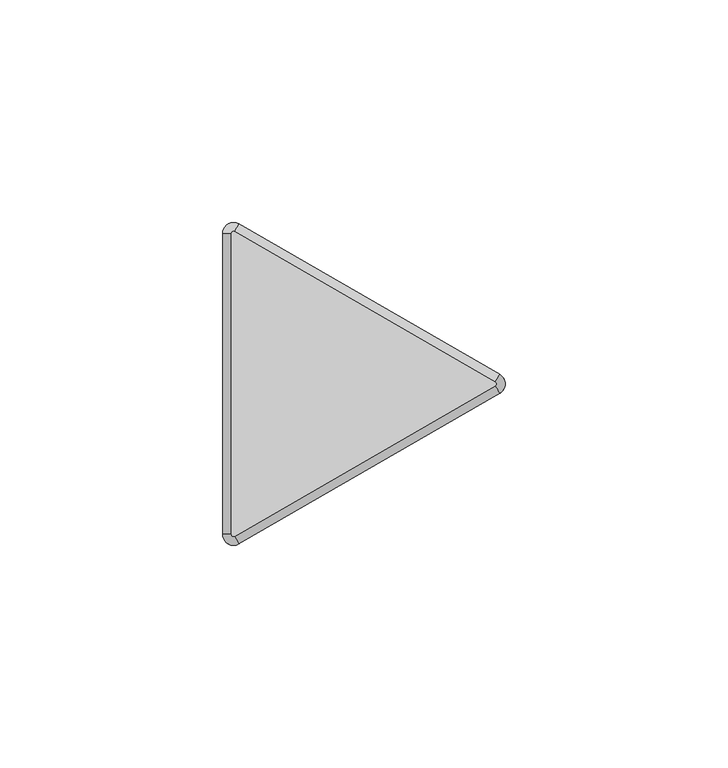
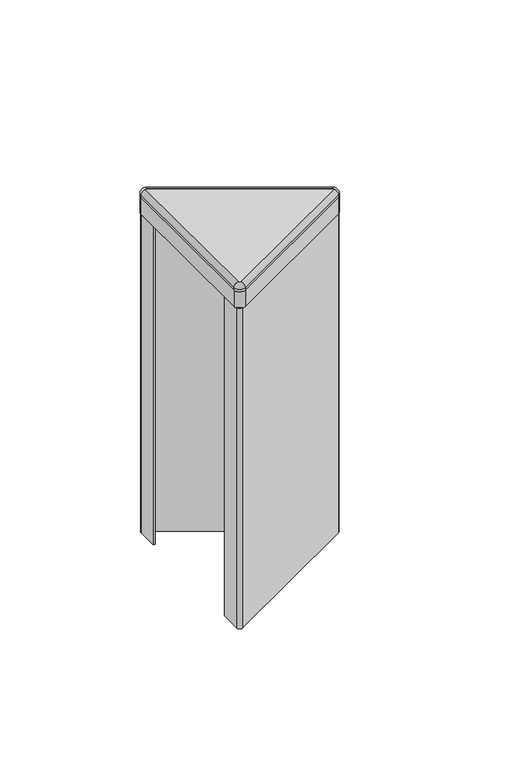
"""IFC4 building model written with IfcOpenShell, lengths in millimetres: furniture geometry, Steelcase - Answer Solution - Panel - 120deg Change-of-Height Trim - Thin : Y Corner - 6H for 42H App."""

from ifc_helpers import new_model, si_unit, point, frame, frame_2d, origin, place, context, project, spatial, polyline, circle_curve, ellipse_curve, trimmed, segment, composite_curve, outline, extrude, source, transform, mapped, element, save
from ifc_brep_helpers import plane_surface, cylinder_surface, revolved_surface, advanced_brep


def furniture_9f8a8c05(model_context):
    return source(origin(), model_context, "Body", "SolidModel", [
        advanced_brep(
        [(-10.518645, -37.3335529, 1071.2628978), (-14.2052101, -35.2051135, 1071.2628978), (-14.2052101, -35.2051135, 1070.3164663), (-10.518645, -37.3335529, 1070.3164663), (-11.46175, -35.7000471, 1073.15), (-12.319, -35.2051135, 1073.15), (-11.46175, -35.7000471, 1070.3164663), (-12.319, -35.2051135, 1070.3164663), (48.0429908, -3.5229767, 1070.3164663), (48.0429908, -3.5229767, 1071.2628978), (47.0998858, -1.8894709, 1073.15), (47.0998858, -1.8894709, 1070.3164663), (48.0429908, 0.733902, 1071.2628978), (48.0429908, 0.733902, 1070.3164663), (47.0998858, -0.8996038, 1073.15), (47.0998858, -0.8996038, 1070.3164663), (-10.518645, 34.5444782, 1070.3164663), (-14.2052101, 32.4160388, 1070.3164663), (-11.46175, 32.9109723, 1070.3164663), (-12.319, 32.4160388, 1070.3164663), (-10.518645, 34.5444782, 1071.2628978), (-11.46175, 32.9109723, 1073.15), (-14.2052101, 32.4160388, 1071.2628978), (-12.319, 32.4160388, 1073.15)],
        [
            (0, 1, circle_curve(frame((-11.7475, -35.2051135, 1071.2628978), z_axis=(0.0, 0.0, -1.0), x_axis=(-1.0, 0.0, 0.0)), 2.4577101)),
            (1, 2),
            (2, 3, circle_curve(frame((-11.7475, -35.2051135, 1070.3164663), z_axis=(0.0, 0.0, 1.0), x_axis=(-1.0, 0.0, 0.0)), 2.4577101)),
            (3, 0),
            (4, 5, circle_curve(frame((-11.7475, -35.2051135, 1073.15), z_axis=(0.0, 0.0, -1.0), x_axis=(-1.0, 0.0, 0.0)), 0.5715)),
            (5, 1, circle_curve(frame((-12.3181076, -35.2051135, 1071.2628978), z_axis=(0.0, -1.0, 0.0), x_axis=(1.0, 0.0, 0.0)), 1.8871024)),
            (0, 4, circle_curve(frame((-11.4621962, -35.6992743, 1071.2628978), z_axis=(-0.8660254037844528, -0.49999999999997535, 0.0), x_axis=(-0.49999999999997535, 0.8660254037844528, 0.0)), 1.8871024)),
            (6, 7, circle_curve(frame((-11.7475, -35.2051135, 1070.3164663), z_axis=(0.0, 0.0, -1.0), x_axis=(-1.0, 0.0, 0.0)), 0.5715)),
            (7, 5),
            (4, 6),
            (3, 8),
            (8, 9),
            (9, 0),
            (9, 10, circle_curve(frame((47.0994396, -1.8886981, 1071.2628978), z_axis=(-0.8660254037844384, -0.5000000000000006, 0.0), x_axis=(-0.5000000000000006, 0.8660254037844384, 0.0)), 1.8871024)),
            (10, 4),
            (10, 11),
            (11, 6),
            (12, 9, circle_curve(frame((46.8141358, -1.3945374, 1071.2628978), z_axis=(0.0, 0.0, -1.0), x_axis=(0.4999999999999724, -0.8660254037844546, 0.0)), 2.4577101)),
            (8, 13, circle_curve(frame((46.8141358, -1.3945374, 1070.3164663), z_axis=(0.0, 0.0, 1.0), x_axis=(0.4999999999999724, -0.8660254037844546, 0.0)), 2.4577101)),
            (13, 12),
            (14, 10, circle_curve(frame((46.8141358, -1.3945374, 1073.15), z_axis=(0.0, 0.0, -1.0), x_axis=(0.4999999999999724, -0.8660254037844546, 0.0)), 0.5715)),
            (12, 14, circle_curve(frame((47.0994396, -0.9003766, 1071.2628978), z_axis=(0.866025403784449, -0.499999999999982, 0.0), x_axis=(-0.499999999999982, -0.866025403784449, 0.0)), 1.8871024)),
            (15, 11, circle_curve(frame((46.8141358, -1.3945374, 1070.3164663), z_axis=(0.0, 0.0, -1.0), x_axis=(0.4999999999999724, -0.8660254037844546, 0.0)), 0.5715)),
            (14, 15),
            (16, 13),
            (2, 17),
            (17, 16, circle_curve(frame((-11.7475, 32.4160388, 1070.3164663), z_axis=(0.0, 0.0, -1.0), x_axis=(0.500000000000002, 0.8660254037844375, 0.0)), 2.4577101)),
            (15, 18),
            (18, 19, circle_curve(frame((-11.7475, 32.4160388, 1070.3164663), z_axis=(0.0, 0.0, 1.0), x_axis=(0.500000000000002, 0.8660254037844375, 0.0)), 0.5715)),
            (19, 7),
            (16, 20),
            (20, 12),
            (20, 21, circle_curve(frame((-11.4621962, 32.9101995, 1071.2628978), z_axis=(0.8660254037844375, -0.5000000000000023, 0.0), x_axis=(-0.5000000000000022, -0.8660254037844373, 0.0)), 1.8871024)),
            (21, 14),
            (21, 18),
            (22, 20, circle_curve(frame((-11.7475, 32.4160388, 1071.2628978), z_axis=(0.0, 0.0, -1.0), x_axis=(0.500000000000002, 0.8660254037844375, 0.0)), 2.4577101)),
            (17, 22),
            (23, 21, circle_curve(frame((-11.7475, 32.4160388, 1073.15), z_axis=(0.0, 0.0, -1.0), x_axis=(0.500000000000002, 0.8660254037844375, 0.0)), 0.5715)),
            (22, 23, circle_curve(frame((-12.3181076, 32.4160388, 1071.2628978), z_axis=(0.0, 1.0, 0.0), x_axis=(1.0, 0.0, 0.0)), 1.8871024)),
            (23, 19),
            (1, 22),
            (5, 23),
        ],
        [
            cylinder_surface(frame((-11.7475, -35.2051135, 0.0), z_axis=(0.0, 0.0, 1.0), x_axis=(-1.0, 0.0, 0.0)), 2.4577101),
            revolved_surface(trimmed(ellipse_curve(frame((-12.3181076, -35.2051135, 1071.2628978), z_axis=(0.0, 1.0, 0.0), x_axis=(1.0, 0.0, 0.0)), 1.8871024, 1.8871024), [point((-14.2052101, -35.2051135, 1071.2628978))], [point((-12.319, -35.2051135, 1073.15))], True, "CARTESIAN"), (-11.7475, -35.2051135, 0.0), (0.0, 0.0, 1.0)),
            revolved_surface(polyline([(-12.319, -35.2051135, 1073.15), (-12.319, -35.2051135, 1070.3164663)]), (-11.7475, -35.2051135, 0.0), (0.0, 0.0, 1.0)),
            plane_surface(frame((-10.518645, -37.3335529, 1070.3164663), z_axis=(0.500000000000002, -0.8660254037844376, 0.0), x_axis=(0.8660254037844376, 0.500000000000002, 0.0))),
            cylinder_surface(frame((-11.4621962, -35.6992743, 1071.2628978), z_axis=(-0.8660254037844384, -0.5000000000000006, 0.0), x_axis=(-0.5000000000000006, 0.8660254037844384, 0.0)), 1.8871024),
            plane_surface(frame((-11.46175, -35.7000471, 1073.15), z_axis=(-0.5000000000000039, 0.8660254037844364, 0.0), x_axis=(0.8660254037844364, 0.5000000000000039, 0.0))),
            cylinder_surface(frame((46.8141358, -1.3945374, 0.0), z_axis=(0.0, 0.0, 1.0), x_axis=(0.4999999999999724, -0.8660254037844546, 0.0)), 2.4577101),
            revolved_surface(trimmed(ellipse_curve(frame((47.0994396, -1.8886981, 1071.2628978), z_axis=(-0.8660254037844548, -0.499999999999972, 0.0), x_axis=(-0.499999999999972, 0.8660254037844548, 0.0)), 1.8871024, 1.8871024), [point((48.0429908, -3.5229767, 1071.2628978))], [point((47.0998858, -1.8894709, 1073.15))], True, "CARTESIAN"), (46.8141358, -1.3945374, 0.0), (0.0, 0.0, 1.0)),
            revolved_surface(polyline([(47.09988579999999, -1.8894709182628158, 1073.15), (47.09988579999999, -1.8894709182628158, 1070.3164663)]), (46.8141358, -1.3945374, 0.0), (0.0, 0.0, 1.0)),
            plane_surface(frame((47.0998858, -0.8996038, 1070.3164663), z_axis=(0.0, 0.0, -1.0), x_axis=(-0.8660254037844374, 0.5000000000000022, 0.0))),
            plane_surface(frame((48.0429908, 0.733902, 1070.3164663), z_axis=(0.5000000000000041, 0.8660254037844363, 0.0), x_axis=(-0.8660254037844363, 0.5000000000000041, 0.0))),
            cylinder_surface(frame((47.0994396, -0.9003766, 1071.2628978), z_axis=(0.8660254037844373, -0.5000000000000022, 0.0), x_axis=(-0.5000000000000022, -0.8660254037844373, 0.0)), 1.8871024),
            plane_surface(frame((47.0998858, -0.8996038, 1073.15), z_axis=(-0.5000000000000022, -0.8660254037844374, 0.0), x_axis=(-0.8660254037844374, 0.5000000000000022, 0.0))),
            cylinder_surface(frame((-11.7475, 32.4160388, 0.0), z_axis=(0.0, 0.0, 1.0), x_axis=(0.500000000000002, 0.8660254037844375, 0.0)), 2.4577101),
            revolved_surface(trimmed(ellipse_curve(frame((-11.4621962, 32.9101995, 1071.2628978), z_axis=(0.866025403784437, -0.5000000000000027, 0.0), x_axis=(-0.5000000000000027, -0.866025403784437, 0.0)), 1.8871024, 1.8871024), [point((-10.518645, 34.5444782, 1071.2628978))], [point((-11.46175, 32.9109723, 1073.15))], True, "CARTESIAN"), (-11.7475, 32.4160388, 0.0), (0.0, 0.0, 1.0)),
            revolved_surface(polyline([(-11.461749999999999, 32.91097231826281, 1073.15), (-11.461749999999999, 32.91097231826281, 1070.3164663)]), (-11.7475, 32.4160388, 0.0), (0.0, 0.0, 1.0)),
            plane_surface(frame((-14.2052101, 32.4160388, 1070.3164663), z_axis=(-1.0, 0.0, 0.0), x_axis=(0.0, -1.0, 0.0))),
            cylinder_surface(frame((-12.3181076, 32.4160388, 1071.2628978), z_axis=(0.0, 1.0, 0.0), x_axis=(1.0, 0.0, 0.0)), 1.8871024),
            plane_surface(frame((-12.319, 32.4160388, 1073.15), z_axis=(1.0, 0.0, 0.0), x_axis=(0.0, -1.0, 0.0))),
        ],
        [
            (0, [[1, 2, 3, 4]]),
            (1, [[5, 6, -1, 7]]),
            (2, [[8, 9, -5, 10]]),
            (3, [[-4, 11, 12, 13]]),
            (4, [[-7, -13, 14, 15]]),
            (5, [[-10, -15, 16, 17]]),
            (6, [[18, -12, 19, 20]]),
            (7, [[21, -14, -18, 22]]),
            (8, [[23, -16, -21, 24]]),
            (9, [[25, -19, -11, -3, 26, 27], [-8, -17, -23, 28, 29, 30]]),
            (10, [[-20, -25, 31, 32]]),
            (11, [[-22, -32, 33, 34]]),
            (12, [[-24, -34, 35, -28]]),
            (13, [[36, -31, -27, 37]]),
            (14, [[38, -33, -36, 39]]),
            (15, [[-29, -35, -38, 40]]),
            (16, [[-37, -26, -2, 41]]),
            (17, [[-39, -41, -6, 42]]),
            (18, [[-40, -42, -9, -30]]),
        ],
    ),
        extrude(outline(composite_curve([segment(trimmed(circle_curve(frame_2d((47.9522001, -1.3945374)), 1.2978651), [point((48.6011327, -0.2705532))], [point((48.6011327, -2.5185215))], False, "CARTESIAN"), True, "CONTINUOUS"), segment(polyline([(48.6011327, -2.5185215), (-11.6879343, -37.3264306)]), True, "CONTINUOUS"), segment(trimmed(circle_curve(frame_2d((-12.3300896, -36.2141852)), 1.2843104), [point((-11.6879343, -37.3264306))], [point((-13.6144, -36.2141852))], False, "CARTESIAN"), True, "CONTINUOUS"), segment(polyline([(-13.6144, -36.2141852), (-13.6144, -27.3303775), (-12.7, -27.3303775), (-12.7, -36.8548888), (48.7191304, -1.3945374), (-12.7, 34.0658141), (-12.7, 24.5413027), (-13.6144, 24.5413027), (-13.6144, 33.4106259)]), True, "CONTINUOUS"), segment(trimmed(circle_curve(frame_2d((-12.3217269, 33.4106259)), 1.2926731), [point((-13.6144, 33.4106259))], [point((-11.6753904, 34.5301136))], False, "CARTESIAN"), True, "CONTINUOUS"), segment(polyline([(-11.6753904, 34.5301136), (48.6011327, -0.2705532)]), True, "CONTINUOUS")], self_intersect=False)), frame((0.0, 0.0, 920.75), z_axis=(0.0, 0.0, 1.0), x_axis=(1.0, 0.0, 0.0)), (0.0, 0.0, 1.0), 142.24),
        extrude(outline(composite_curve([segment(trimmed(circle_curve(frame_2d((46.8261011, -1.3945374)), 0.5655173), [point((47.1088598, -0.904785))], [point((47.1088598, -1.8842897))], False, "CARTESIAN"), True, "CONTINUOUS"), segment(polyline([(47.1088598, -1.8842897), (-11.4505119, -35.6935587)]), True, "CONTINUOUS"), segment(trimmed(circle_curve(frame_2d((-11.7400079, -35.1921369)), 0.5789921), [point((-11.4505119, -35.6935587))], [point((-12.319, -35.1921369))], False, "CARTESIAN"), True, "CONTINUOUS"), segment(polyline([(-12.319, -35.1921369), (-12.319, 32.3985888)]), True, "CONTINUOUS"), segment(trimmed(circle_curve(frame_2d((-11.7374252, 32.3985888)), 0.5815748), [point((-12.319, 32.3985888))], [point((-11.4466378, 32.9022473))], False, "CARTESIAN"), True, "CONTINUOUS"), segment(polyline([(-11.4466378, 32.9022473), (47.1088598, -0.904785)]), True, "CONTINUOUS")], self_intersect=False)), frame((0.0, 0.0, 1070.3164663), z_axis=(0.0, 0.0, 1.0), x_axis=(1.0, 0.0, 0.0)), (0.0, 0.0, 1.0), 2.8335337),
        extrude(outline(composite_curve([segment(trimmed(circle_curve(frame_2d((46.8140443, -1.3945374)), 2.4577558), [point((48.0429222, 0.7339416))], [point((48.0429222, -3.5230163))], False, "CARTESIAN"), True, "CONTINUOUS"), segment(polyline([(48.0429222, -3.5230163), (-10.518058, -37.333214)]), True, "CONTINUOUS"), segment(trimmed(circle_curve(frame_2d((-11.7471087, -35.2044357)), 2.4581014), [point((-10.518058, -37.333214))], [point((-14.2052101, -35.2044357))], False, "CARTESIAN"), True, "CONTINUOUS"), segment(polyline([(-14.2052101, -35.2044357), (-14.2052101, 32.4160388)]), True, "CONTINUOUS"), segment(trimmed(circle_curve(frame_2d((-11.7475, 32.4160388)), 2.4577101), [point((-14.2052101, 32.4160388))], [point((-10.518645, 34.5444782))], False, "CARTESIAN"), True, "CONTINUOUS"), segment(polyline([(-10.518645, 34.5444782), (48.0429222, 0.7339416)]), True, "CONTINUOUS")], self_intersect=False)), frame((0.0, 0.0, 1062.99), z_axis=(0.0, 0.0, 1.0), x_axis=(1.0, 0.0, 0.0)), (0.0, 0.0, 1.0), 7.3264663),
    ])


if __name__ == "__main__":
    model = new_model("IFC4")
    model_context = context("Model", 3, world=origin())
    ifc_project = project(units=[si_unit("LENGTHUNIT", "METRE", prefix="MILLI")], contexts=[model_context])
    site = spatial("IfcSite", under=ifc_project)
    building = spatial("IfcBuilding", under=site)
    placement = place(None, origin())
    furniture_shape = furniture_9f8a8c05(model_context)
    element("IfcFurniture", 1, ObjectType="Steelcase - Answer Solution - Panel - 120deg Change-of-Height Trim - Thin : Y Corner - 6H for 42H App", at=placement, inside=building, context=model_context, shape_type="MappedRepresentation", body=[
        mapped(furniture_shape, transform((0.0, 0.0, 0.0), x_axis=(1.0, 0.0, 0.0), y_axis=(0.0, 1.0, 0.0), z_axis=(0.0, 0.0, 1.0))),
    ])
    save(model, "model.ifc")
